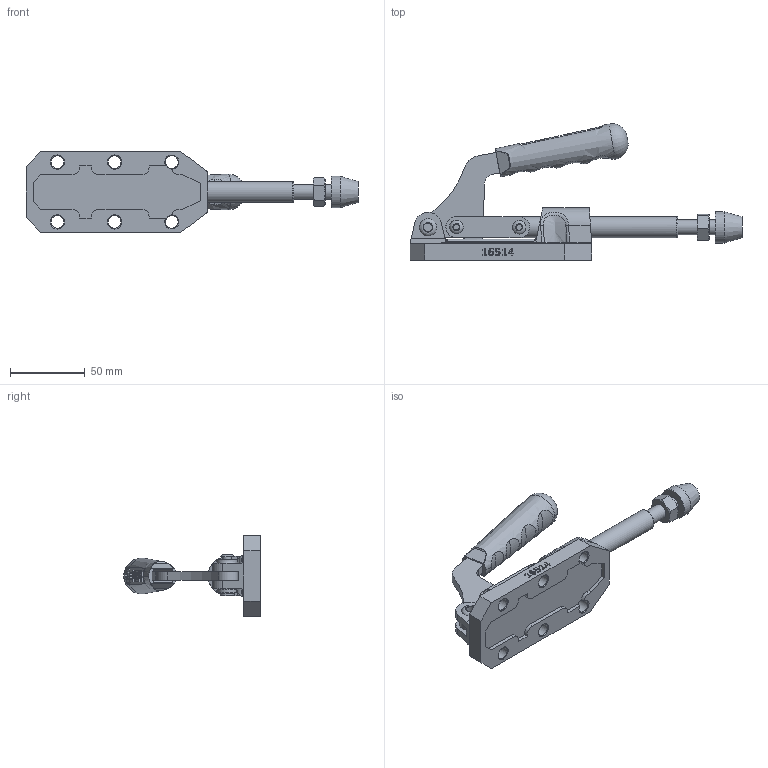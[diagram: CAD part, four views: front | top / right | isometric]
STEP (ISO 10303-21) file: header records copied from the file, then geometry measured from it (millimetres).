
FILE_DESCRIPTION (( 'STEP AP214' ), '1' );
FILE_NAME ('16514.STEP', '2023-09-08T09:32:27', ( '' ), ( '' ), 'SwSTEP 2.0', 'SolidWorks 2023', '' );
FILE_SCHEMA (( 'AUTOMOTIVE_DESIGN' ));
Length unit declared in the file: millimetre
Products named in the file (1): 16514
Bounding box: 222 x 91.29 x 54 mm (x, y, z)
Volume: 148748.7 mm3; surface area: 61231.4 mm2
Topology: 13 solids, 13 shells, 726 faces, 1912 edges, 1241 vertices
Faces by surface type: plane 387, bspline 149, cylinder 127, cone 32, torus 29, sphere 2
Full cylindrical faces by diameter (mm): 4 x2, 5.8 x3, 6 x8, 7.8 x2, 8 x2, 8.5 x7, 8.75 x1, 9.2 x2, 10 x1, 12.5 x1, 14 x4, 21 x1
Entity records: 36748 total; most frequent: CARTESIAN_POINT 11911, ORIENTED_EDGE 3674, DIRECTION 2965, EDGE_CURVE 1837, VERTEX_POINT 1231, LINE 1115, VECTOR 1115, AXIS2_PLACEMENT_3D 925
